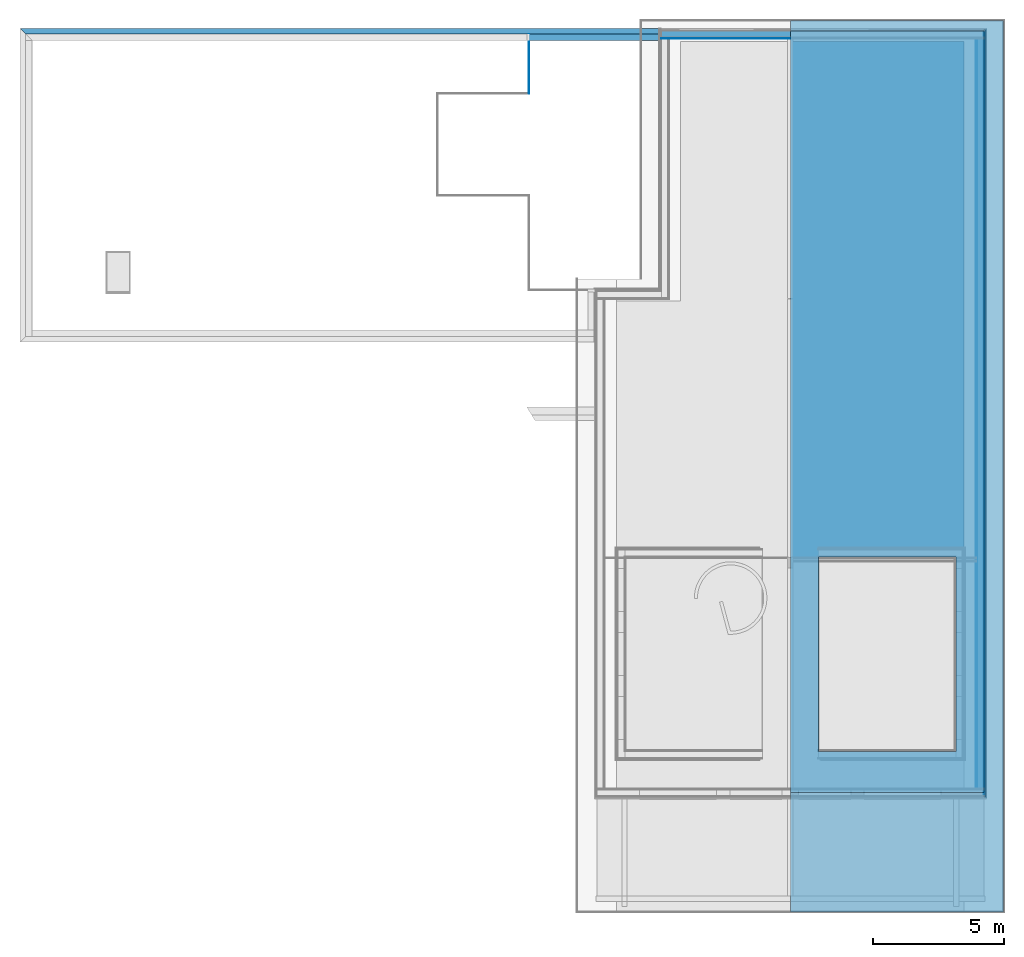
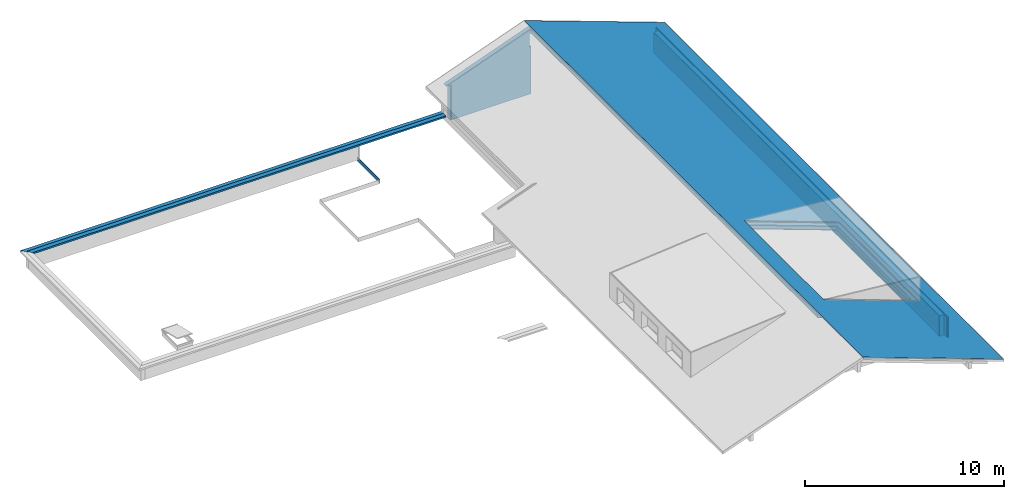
# One storey, part 9 of 12: 20 building element parts, 1 discrete accessory, 6 elements without a shape of their own.
"""IFC4 building model written with IfcOpenShell, lengths in millimetres."""

from ifc_helpers import new_model, entity, si_unit, converted_unit, derived_unit, direction, frame, origin_with_axes, place, context, subcontext, project, spatial, polygons, material, type_object, element, aggregate, save


model = new_model("IFC4")

# Units and contexts
model_context = context("Model", 3, precision=0.01, world=origin_with_axes(), true_north=direction((0.0, 1.0)))
body_context = subcontext(model_context, "Body", "Model", "MODEL_VIEW")
ifc_project = project(units=[si_unit("LENGTHUNIT", "METRE", prefix="MILLI"), si_unit("AREAUNIT", "SQUARE_METRE"), si_unit("VOLUMEUNIT", "CUBIC_METRE"), converted_unit("PLANEANGLEUNIT", "DEGREE", entity("IfcPlaneAngleMeasure", 0.0174532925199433), si_unit("PLANEANGLEUNIT", "RADIAN"), dimensions=[0, 0, 0, 0, 0, 0, 0]), converted_unit("TIMEUNIT", "Year", entity("IfcTimeMeasure", 31557600.0), si_unit("TIMEUNIT", "SECOND"), dimensions=[0, 0, 1, 0, 0, 0, 0]), si_unit("MASSUNIT", "GRAM", prefix="KILO"), si_unit("THERMODYNAMICTEMPERATUREUNIT", "DEGREE_CELSIUS"), si_unit("LUMINOUSINTENSITYUNIT", "LUMEN"), si_unit("ENERGYUNIT", "JOULE", prefix="MEGA"), derived_unit("THERMALCONDUCTANCEUNIT", [(si_unit("POWERUNIT", "WATT"), 1), (si_unit("LENGTHUNIT", "METRE"), -1), (si_unit("THERMODYNAMICTEMPERATUREUNIT", "KELVIN"), -1)]), derived_unit("SPECIFICHEATCAPACITYUNIT", [(si_unit("ENERGYUNIT", "JOULE"), 1), (si_unit("MASSUNIT", "GRAM", prefix="KILO"), -1), (si_unit("THERMODYNAMICTEMPERATUREUNIT", "KELVIN"), -1)]), derived_unit("MASSDENSITYUNIT", [(si_unit("MASSUNIT", "GRAM", prefix="KILO"), 1), (si_unit("VOLUMEUNIT", "CUBIC_METRE"), -1)])], contexts=[model_context])

# Site, building, storey
site_placement = place(None, origin_with_axes())
site = spatial("IfcSite", under=ifc_project, at=site_placement, Name="Gelände", CompositionType="ELEMENT")
building_placement = place(site_placement, origin_with_axes())
building = spatial("IfcBuilding", under=site, at=building_placement, Name="Gebäude", CompositionType="ELEMENT")
storey_placement = place(building_placement, frame((0.0, 0.0, 11600.0), z_axis=(0.0, 0.0, 1.0), x_axis=(1.0, 0.0, 0.0)))
storey = spatial("IfcBuildingStorey", under=building, at=storey_placement, Name="Dachaufsicht", CompositionType="ELEMENT", Elevation=11600.0)

# Discrete accessory
ifc_material_1 = material(Name="Bewehrung")
discrete_accessory_type = type_object("IfcDiscreteAccessoryType", Name="Bewehrung 20 x 250", PredefinedType="NOTDEFINED")
discrete_accessory_placement = place(storey_placement, frame((15428.99744477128, 37737.59728131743, -5.198845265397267e-05), z_axis=(0.0, 0.0, 1.0), x_axis=(-1.0, 0.0, 0.0)))
element("IfcDiscreteAccessory", 1, at=discrete_accessory_placement, inside=storey, type_object=discrete_accessory_type, material=ifc_material_1, Name="Unterzug-029", PredefinedType="NOTDEFINED", context=body_context, shape_type="Tessellation", body=[
    polygons([(0.0, 2289.999999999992, -250.0), (19.99999999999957, 2269.999999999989, -250.0), (19.99999999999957, 0.0, -250.0), (0.0, 0.0, -250.0), (0.0, 2289.999999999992, 0.0), (19.99999999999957, 2269.999999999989, 0.0), (19.99999999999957, 0.0, 0.0), (0.0, 0.0, 0.0)], [[[1, 2, 3, 4]], [[1, 5, 6, 2]], [[2, 6, 7, 3]], [[4, 3, 7, 8]], [[5, 1, 4, 8]], [[6, 5, 8, 7]]], closed=True),
])

# Wall, building element parts
wall_type = type_object("IfcWallType", Name="Aussenwand Typ 01 318", PredefinedType="NOTDEFINED")
wall_1_placement = place(storey_placement, frame((32857.99744477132, 37876.59728131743, 500.0), z_axis=(0.0, 0.0, 1.0), x_axis=(0.0, -1.0, 0.0)))
wall_1 = element("IfcWall", 2, at=wall_1_placement, inside=storey, type_object=wall_type, Name="Wand-014", PredefinedType="NOTDEFINED")
ifc_material_2 = material(Name="Grobspanplatte-OSB")
building_element_part_1_placement = place(wall_1_placement, origin_with_axes())
building_element_part_1 = element("IfcBuildingElementPart", 3, at=building_element_part_1_placement, material=ifc_material_2, Name="Grobspanplatte-OSB", PredefinedType="NOTDEFINED", context=body_context, shape_type="Tessellation", body=[
    polygons([(29340.00000000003, 0.0, 1267.275017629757), (18.00000000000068, 0.0, 1267.275017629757), (18.00000000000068, -18.00000000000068, 1267.275017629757), (29340.00000000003, -18.00000000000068, 1267.275017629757), (29340.00000000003, 0.0, 0.0), (18.00000000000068, 0.0, 0.0), (18.00000000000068, -18.00000000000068, 0.0), (29340.00000000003, -18.00000000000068, 0.0)], [[[1, 2, 3, 4]], [[5, 6, 2, 1]], [[3, 2, 6, 7]], [[4, 3, 7, 8]], [[4, 8, 5, 1]], [[8, 7, 6, 5]]], closed=True),
])
ifc_material_3 = material(Name="Ständer Konstruktion gedämmt")
building_element_part_2_placement = place(wall_1_placement, origin_with_axes())
building_element_part_2 = element("IfcBuildingElementPart", 4, at=building_element_part_2_placement, material=ifc_material_3, Name="Ständer Konstruktion gedämmt", PredefinedType="NOTDEFINED", context=body_context, shape_type="Tessellation", body=[
    polygons([(29080.00000000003, -18.00000000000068, 1267.275017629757), (277.9999999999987, -18.00000000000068, 1267.275017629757), (277.9999999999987, -277.9999999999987, 1267.275017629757), (29080.00000000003, -278.0000000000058, 1267.275017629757), (29080.00000000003, -18.00000000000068, 0.0), (277.9999999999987, -18.00000000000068, 0.0), (277.9999999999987, -277.9999999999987, 0.0), (29080.00000000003, -278.0000000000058, 0.0)], [[[1, 2, 3, 4]], [[5, 6, 2, 1]], [[3, 2, 6, 7]], [[4, 3, 7, 8]], [[4, 8, 5, 1]], [[8, 7, 6, 5]]], closed=True),
])
ifc_material_4 = material(Name="Gipsfaserplatte GFP")
building_element_part_3_placement = place(wall_1_placement, origin_with_axes())
building_element_part_3 = element("IfcBuildingElementPart", 5, at=building_element_part_3_placement, material=ifc_material_4, Name="Gipsfaserplatte GFP", PredefinedType="NOTDEFINED", context=body_context, shape_type="Tessellation", body=[
    polygons([(29065.00000000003, -278.0000000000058, 1267.275017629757), (292.9999999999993, -277.9999999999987, 1267.275017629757), (292.9999999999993, -292.9999999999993, 1267.275017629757), (29065.00000000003, -293.0000000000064, 1267.275017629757), (29065.00000000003, -278.0000000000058, 0.0), (292.9999999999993, -277.9999999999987, 0.0), (292.9999999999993, -292.9999999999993, 0.0), (29065.00000000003, -293.0000000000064, 0.0)], [[[1, 2, 3, 4]], [[5, 6, 2, 1]], [[3, 2, 6, 7]], [[4, 3, 7, 8]], [[4, 8, 5, 1]], [[8, 7, 6, 5]]], closed=True),
])
ifc_material_5 = material(Name="Verputz Innen")
building_element_part_4_placement = place(wall_1_placement, origin_with_axes())
building_element_part_4 = element("IfcBuildingElementPart", 6, at=building_element_part_4_placement, material=ifc_material_5, Name="Verputz Innen", PredefinedType="NOTDEFINED", context=body_context, shape_type="Tessellation", body=[
    polygons([(20340.92716879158, -308.0000000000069, 150.0000000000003), (20340.92716879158, -308.0000000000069, 0.0), (317.9999999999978, -307.9999999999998, 0.0), (317.9999999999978, -307.9999999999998, 1267.275017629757), (29040.00000000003, -308.0000000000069, 1267.275017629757), (29040.00000000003, -308.0000000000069, 150.0000000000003), (20340.92716879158, -318.0000000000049, 150.0000000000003), (20340.92716879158, -318.0000000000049, 0.0), (317.9999999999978, -317.9999999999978, 0.0), (317.9999999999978, -317.9999999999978, 1267.275017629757), (29040.00000000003, -318.0000000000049, 1267.275017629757), (29040.00000000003, -318.0000000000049, 150.0000000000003)], [[[1, 2, 3, 4, 5, 6]], [[1, 7, 8, 2]], [[2, 8, 9, 3]], [[9, 10, 4, 3]], [[11, 5, 4, 10]], [[12, 6, 5, 11]], [[1, 6, 12, 7]], [[7, 12, 11, 10, 9, 8]]], closed=True),
])
building_element_part_5_placement = place(wall_1_placement, origin_with_axes())
building_element_part_5 = element("IfcBuildingElementPart", 7, at=building_element_part_5_placement, material=ifc_material_4, Name="Gipsfaserplatte GFP", PredefinedType="NOTDEFINED", context=body_context, shape_type="Tessellation", body=[
    polygons([(29050.00000000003, -293.0000000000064, 1267.275017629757), (307.9999999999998, -292.9999999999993, 1267.275017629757), (307.9999999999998, -307.9999999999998, 1267.275017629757), (29050.00000000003, -308.0000000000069, 1267.275017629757), (29050.00000000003, -293.0000000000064, 0.0), (307.9999999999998, -292.9999999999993, 0.0), (307.9999999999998, -307.9999999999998, 0.0), (29050.00000000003, -308.0000000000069, 0.0)], [[[1, 2, 3, 4]], [[5, 6, 2, 1]], [[3, 2, 6, 7]], [[4, 3, 7, 8]], [[4, 8, 5, 1]], [[8, 7, 6, 5]]], closed=True),
])
aggregate(wall_1, [building_element_part_1, building_element_part_2, building_element_part_3, building_element_part_4, building_element_part_5])

wall_2_placement = place(storey_placement, frame((25428.99744442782, 37876.59728131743, 500.0), z_axis=(0.0, 0.0, 1.0), x_axis=(-1.0, 0.0, 0.0)))
wall_2 = element("IfcWall", 8, at=wall_2_placement, inside=storey, type_object=wall_type, Name="Wand-014", PredefinedType="NOTDEFINED")
building_element_part_6_placement = place(wall_2_placement, origin_with_axes())
building_element_part_6 = element("IfcBuildingElementPart", 9, at=building_element_part_6_placement, material=ifc_material_5, Name="Verputz Innen", PredefinedType="NOTDEFINED", context=body_context, shape_type="Tessellation", body=[
    polygons([(4941.999999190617, 307.9999943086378, 2165.91752631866), (3.202416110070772e-08, 307.9999999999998, 3964.658423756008), (0.0, 307.9999999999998, 3703.934870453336), (99.99999986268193, 307.9999900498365, 3703.934870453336), (99.99999986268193, 307.9999900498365, 2903.934870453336), (0.0, 307.9999999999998, 2903.934870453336), (0.0, 307.9999999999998, 0.0), (4641.999999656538, 307.9999999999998, 0.0), (4641.999999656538, 307.9999900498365, 2165.91752631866), (4941.999999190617, 317.9999996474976, 2165.91752631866), (3.202416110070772e-08, 317.9999999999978, 3964.658423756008), (0.0, 317.9999999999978, 3703.934870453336), (99.99999986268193, 317.9999996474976, 3703.934870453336), (99.99999986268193, 317.9999996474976, 2903.934870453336), (0.0, 317.9999999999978, 2903.934870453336), (0.0, 317.9999999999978, 0.0), (4641.999999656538, 317.9999999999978, 0.0), (4641.999999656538, 317.9999996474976, 2165.91752631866)], [[[1, 2, 3, 4, 5, 6, 7, 8, 9]], [[2, 1, 10, 11]], [[2, 11, 12, 3]], [[3, 12, 13, 4]], [[4, 13, 14, 5]], [[6, 5, 14, 15]], [[15, 16, 7, 6]], [[17, 8, 7, 16]], [[9, 8, 17, 18]], [[10, 1, 9, 18]], [[11, 10, 18, 17, 16, 15, 14, 13, 12]]], closed=True),
])
building_element_part_7_placement = place(wall_2_placement, origin_with_axes())
building_element_part_7 = element("IfcBuildingElementPart", 10, at=building_element_part_7_placement, material=ifc_material_4, Name="Gipsfaserplatte GFP", PredefinedType="NOTDEFINED", context=body_context, shape_type="Tessellation", body=[
    polygons([(4941.999999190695, 292.9999999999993, 2165.91752631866), (3.202416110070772e-08, 292.9999999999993, 3964.658423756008), (0.0, 292.9999999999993, 3703.934870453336), (99.99999986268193, 292.9999999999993, 3703.934870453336), (99.99999986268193, 292.9999999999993, 2903.934870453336), (0.0, 292.9999999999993, 2903.934870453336), (0.0, 292.9999999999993, 0.0), (4651.999999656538, 292.9999999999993, 0.0), (4651.999999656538, 292.9999999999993, 2165.91752631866), (4941.999999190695, 307.9999943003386, 2165.91752631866), (3.202416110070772e-08, 307.9999999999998, 3964.658423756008), (0.0, 307.9999999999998, 3703.934870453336), (99.99999986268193, 307.9999900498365, 3703.934870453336), (99.99999986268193, 307.9999900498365, 2903.934870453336), (0.0, 307.9999999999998, 2903.934870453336), (0.0, 307.9999999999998, 0.0), (4651.999999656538, 307.9999999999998, 0.0), (4651.999999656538, 307.9999900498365, 2165.91752631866)], [[[1, 2, 3, 4, 5, 6, 7, 8, 9]], [[2, 1, 10, 11]], [[2, 11, 12, 3]], [[3, 12, 13, 4]], [[4, 13, 14, 5]], [[6, 5, 14, 15]], [[15, 16, 7, 6]], [[17, 8, 7, 16]], [[9, 8, 17, 18]], [[10, 1, 9, 18]], [[11, 10, 18, 17, 16, 15, 14, 13, 12]]], closed=True),
])
building_element_part_8_placement = place(wall_2_placement, origin_with_axes())
building_element_part_8 = element("IfcBuildingElementPart", 11, at=building_element_part_8_placement, material=ifc_material_3, Name="Ständer Konstruktion gedämmt", PredefinedType="NOTDEFINED", context=body_context, shape_type="Tessellation", body=[
    polygons([(4941.999999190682, 18.00000377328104, 2165.91752631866), (3.202416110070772e-08, 18.00000000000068, 3964.658423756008), (0.0, 18.00000000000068, 0.0), (4681.99999965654, 18.00000000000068, 0.0), (4681.99999965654, 18.00000655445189, 2165.91752631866), (4941.999999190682, 277.9999931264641, 2165.91752631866), (3.202416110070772e-08, 277.9999999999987, 3964.658423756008), (0.0, 277.9999999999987, 3703.934870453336), (0.0, 58.00000000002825, 3703.934870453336), (0.0, 58.00000000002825, 2903.934870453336), (0.0, 277.9999999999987, 2903.934870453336), (0.0, 277.9999999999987, 0.0), (4681.99999965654, 277.9999999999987, 0.0), (4681.99999965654, 277.9999880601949, 2165.91752631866), (99.99999986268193, 277.9999880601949, 2903.934870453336), (99.99999986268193, 277.9999880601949, 3703.934870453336), (99.99999986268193, 58.00000000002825, 3703.934870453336), (99.99999986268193, 58.00000000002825, 2903.934870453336)], [[[1, 2, 3, 4, 5]], [[2, 1, 6, 7]], [[2, 7, 8, 9, 10, 11, 12, 3]], [[13, 4, 3, 12]], [[5, 4, 13, 14]], [[6, 1, 5, 14]], [[7, 6, 14, 13, 12, 11, 15, 16, 8]], [[8, 16, 17, 9]], [[9, 17, 18, 10]], [[10, 18, 15, 11]], [[15, 18, 17, 16]]], closed=True),
])
aggregate(wall_2, [building_element_part_6, building_element_part_7, building_element_part_8])

# Curtain wall, building element parts
curtain_wall_type = type_object("IfcCurtainWallType", Name="Fassade Typ 02 - Vertikale Schalung 71", PredefinedType="NOTDEFINED")
curtain_wall_placement = place(storey_placement, frame((32928.99744408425, 37947.59728063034, 499.999999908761), z_axis=(0.0, 0.0, 1.0), x_axis=(0.0, -1.0, 0.0)))
curtain_wall = element("IfcCurtainWall", 12, at=curtain_wall_placement, inside=storey, type_object=curtain_wall_type, Name="Wand-014", PredefinedType="NOTDEFINED")
ifc_material_6 = material(Name="Falzschalung vertikal")
building_element_part_9_placement = place(curtain_wall_placement, origin_with_axes())
building_element_part_9 = element("IfcBuildingElementPart", 13, at=building_element_part_9_placement, material=ifc_material_6, Name="Falzschalung vertikal", PredefinedType="NOTDEFINED", context=body_context, shape_type="Tessellation", body=[
    polygons([(21.00001796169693, -21.0000000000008, 463.7053149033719), (8.953328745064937e-06, 9.040583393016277e-06, 461.6322532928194), (-1.151079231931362e-09, -21.0000000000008, 461.6322524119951), (29478.99999931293, -1.49213974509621e-10, 461.6322541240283), (29478.99999978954, -21.00000047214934, 463.7053148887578), (0.0, 0.0, 0.0), (-1.151079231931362e-09, -21.0000000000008, 0.0), (29478.99999931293, -21.0000000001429, 0.0), (29478.99999931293, -1.49213974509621e-10, 0.0)], [[[1, 2, 3]], [[4, 2, 1, 5]], [[3, 2, 6, 7]], [[5, 1, 3, 7, 8]], [[2, 4, 9, 6]], [[4, 5, 8, 9]], [[9, 8, 7, 6]]], closed=True),
    polygons([(29478.99999931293, -1.49213974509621e-10, 464.4625117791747), (8.949690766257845e-06, 9.044228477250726e-06, 464.4625109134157), (0.0, 0.0, 1260.723553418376), (29478.99999931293, -1.49213974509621e-10, 1260.723553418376), (21.00001796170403, -21.0000000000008, 466.6208122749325), (29478.99999978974, -21.00000047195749, 466.6208122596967), (-1.151079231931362e-09, -21.0000000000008, 464.4625099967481), (-1.151079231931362e-09, -21.0000000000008, 1260.723553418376), (29478.99999931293, -21.0000000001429, 1260.723553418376)], [[[1, 2, 3, 4]], [[5, 2, 1, 6]], [[2, 7, 8, 3]], [[9, 4, 3, 8]], [[6, 1, 4, 9]], [[2, 5, 7]], [[5, 6, 9, 8, 7]]], closed=True),
])
ifc_material_7 = material(Name="Lattenrost horizontal")
building_element_part_10_placement = place(curtain_wall_placement, origin_with_axes())
building_element_part_10 = element("IfcBuildingElementPart", 14, at=building_element_part_10_placement, material=ifc_material_7, Name="Lattenrost horizontal", PredefinedType="NOTDEFINED", context=body_context, shape_type="Tessellation", body=[
    polygons([(46.00001792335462, -46.00000000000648, 466.1732443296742), (21.00000893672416, -20.99999097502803, 463.7053140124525), (20.99999999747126, -45.99999999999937, 463.7053131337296), (29453.99999931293, -21.0000000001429, 463.7053148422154), (29453.99999978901, -46.00000047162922, 466.1732443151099), (20.99999999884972, -21.0000000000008, 0.0), (20.99999999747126, -45.99999999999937, 0.0), (29453.99999931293, -46.00000000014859, 0.0), (29453.99999931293, -21.0000000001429, 0.0)], [[[1, 2, 3]], [[4, 2, 1, 5]], [[3, 2, 6, 7]], [[5, 1, 3, 7, 8]], [[2, 4, 9, 6]], [[4, 5, 8, 9]], [[9, 8, 7, 6]]], closed=True),
    polygons([(29453.99999931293, -21.0000000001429, 466.620812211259), (21.00000893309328, -20.99999097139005, 466.6208113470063), (20.99999999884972, -21.0000000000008, 1260.723553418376), (29453.99999931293, -21.0000000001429, 1260.723553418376), (46.00001792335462, -46.00000000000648, 469.1902175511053), (29453.9999997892, -46.00000047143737, 469.1902175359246), (20.99999999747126, -45.99999999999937, 466.6208104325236), (20.99999999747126, -45.99999999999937, 1260.723553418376), (29453.99999931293, -46.00000000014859, 1260.723553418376)], [[[1, 2, 3, 4]], [[5, 2, 1, 6]], [[2, 7, 8, 3]], [[9, 4, 3, 8]], [[6, 1, 4, 9]], [[2, 5, 7]], [[5, 6, 9, 8, 7]]], closed=True),
])
ifc_material_8 = material(Name="Lattenrost vertikal")
building_element_part_11_placement = place(curtain_wall_placement, origin_with_axes())
building_element_part_11 = element("IfcBuildingElementPart", 15, at=building_element_part_11_placement, material=ifc_material_8, Name="Lattenrost vertikal", PredefinedType="NOTDEFINED", context=body_context, shape_type="Tessellation", body=[
    polygons([(71.00001805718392, -71.00000017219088, 468.641173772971), (46.00000891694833, -45.99999099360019, 466.1732434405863), (45.9999999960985, -70.99999999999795, 466.1732425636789), (29428.99999931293, -46.00000000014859, 466.173244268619), (29428.99999946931, -71.0000007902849, 468.641173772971), (45.99999999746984, -45.99999999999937, 0.0), (45.9999999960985, -70.99999999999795, 0.0), (29428.99999931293, -71.00000000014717, 0.0), (29428.99999931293, -46.00000000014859, 0.0)], [[[1, 2, 3]], [[4, 2, 1, 5]], [[3, 2, 6, 7]], [[5, 1, 3, 7, 8]], [[2, 4, 9, 6]], [[4, 5, 8, 9]], [[9, 8, 7, 6]]], closed=True),
    polygons([(29428.99999931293, -46.00000000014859, 469.190217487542), (46.00000891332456, -45.99999098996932, 469.1902166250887), (45.99999999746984, -45.99999999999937, 1260.723553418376), (29428.99999931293, -46.00000000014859, 1260.723553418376), (68.30001690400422, -68.29999901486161, 471.4821269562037), (29428.99999931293, -68.29999963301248, 471.4821269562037), (45.9999999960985, -70.99999999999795, 469.1902157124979), (45.9999999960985, -70.99999999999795, 1260.723553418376), (29428.99999931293, -71.00000000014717, 1260.723553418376), (29428.99999946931, -71.0000007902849, 501.6508769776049), (29428.99999931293, -68.29999963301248, 501.6508769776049), (68.3000168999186, -70.99999999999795, 471.4821269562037), (68.30001690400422, -68.29999901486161, 501.6508769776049), (71.00001805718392, -71.00000017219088, 501.6508769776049), (68.3000168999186, -70.99999999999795, 501.6508769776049)], [[[1, 2, 3, 4]], [[5, 2, 1, 6]], [[2, 7, 8, 3]], [[9, 4, 3, 8]], [[6, 1, 4, 9, 10, 11]], [[2, 5, 12, 7]], [[13, 5, 6, 11]], [[14, 10, 9, 8, 7, 12, 15]], [[13, 11, 10, 14, 15]], [[5, 13, 15, 12]]], closed=True),
])
aggregate(curtain_wall, [building_element_part_9, building_element_part_10, building_element_part_11])

# Roof, building element parts
roof_type = type_object("IfcRoofType", Name="Steildach Typ 01 255", PredefinedType="NOTDEFINED")
roof_placement = place(storey_placement, frame((32857.99744398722, 8518.597281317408, 1499.999999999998), z_axis=(0.0, 0.0, 1.0), x_axis=(0.0, 1.0, 0.0)))
roof = element("IfcRoof", 16, at=roof_placement, inside=storey, type_object=roof_type, Name="Dach-011", PredefinedType="NOTDEFINED")
ifc_material_9 = material(Name="Balken Konstruktion gedämmt")
building_element_part_12_placement = place(roof_placement, origin_with_axes())
building_element_part_12 = element("IfcBuildingElementPart", 17, at=building_element_part_12_placement, material=ifc_material_9, Name="Balken Konstruktion gedämmt", PredefinedType="NOTDEFINED", context=body_context, shape_type="Tessellation", body=[
    polygons([(29340.00000045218, 7429.000000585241, 2932.733091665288), (29339.99999997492, 18.00000048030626, 235.3496854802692), (29339.99999986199, 18.00000060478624, 43.79768647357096), (29340.0000007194, 7429.000000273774, 2741.181092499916), (177.9999992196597, 18.00000048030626, 235.3496854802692), (28939.99999964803, 7429.000000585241, 2932.733091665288), (28939.99999964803, 769.7540973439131, 508.9658002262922), (177.9999992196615, 769.7540973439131, 508.9658002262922), (177.9999993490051, 18.00000060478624, 43.79768647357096), (177.9999993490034, 7428.999999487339, 2741.181092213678), (1749.072831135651, 6357.900825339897, 2351.332874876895), (1749.072831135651, 1086.000000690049, 432.5178967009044), (9201.100000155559, 1086.000000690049, 432.5178967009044), (9201.100000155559, 6357.900825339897, 2351.332874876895), (177.9999992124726, 7428.999999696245, 2943.374869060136), (28939.99999970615, 7429.000000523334, 2943.374869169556), (28939.99999971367, 769.7540973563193, 519.6075779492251), (177.9999992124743, 769.7540973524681, 519.6075779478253), (1749.072831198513, 6357.900825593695, 2553.526651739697), (1749.072831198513, 1086.000000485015, 634.7116733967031), (9201.100000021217, 1086.000000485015, 634.7116733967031), (9201.100000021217, 6357.900825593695, 2553.526651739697)], [[[1, 2, 3, 4]], [[5, 2, 1, 6, 7, 8]], [[2, 5, 9, 3]], [[10, 4, 3, 9], [11, 12, 13, 14]], [[6, 1, 4, 10, 15, 16]], [[16, 17, 7, 6]], [[17, 18, 8, 7]], [[8, 18, 15, 10, 9, 5]], [[19, 20, 12, 11]], [[20, 21, 13, 12]], [[21, 22, 14, 13]], [[22, 19, 11, 14]], [[17, 16, 15, 18], [21, 20, 19, 22]]], closed=True),
])
ifc_material_10 = material(Name="Dreischichtplatte-DSP")
building_element_part_13_placement = place(roof_placement, origin_with_axes())
building_element_part_13 = element("IfcBuildingElementPart", 18, at=building_element_part_13_placement, material=ifc_material_10, Name="Dreischichtplatte-DSP", PredefinedType="NOTDEFINED", context=body_context, shape_type="Tessellation", body=[
    polygons([(28939.99999991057, 769.7540973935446, 551.5329104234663), (28939.99999988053, 7429.000000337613, 2975.300201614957), (177.9999991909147, 7428.999999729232, 2975.300201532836), (177.9999991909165, 769.7540973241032, 551.5329103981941), (9201.100000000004, 1086.000000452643, 666.6370058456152), (1749.072831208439, 1086.000000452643, 666.6370058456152), (1749.072831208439, 6357.90082563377, 2585.451984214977), (9201.100000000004, 6357.90082563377, 2585.451984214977), (28939.99999971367, 769.7540973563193, 519.6075779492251), (28939.99999970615, 7429.000000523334, 2943.374869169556), (177.9999992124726, 7428.999999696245, 2943.374869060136), (177.9999992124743, 769.7540973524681, 519.6075779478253), (9201.100000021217, 1086.000000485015, 634.7116733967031), (1749.072831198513, 1086.000000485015, 634.7116733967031), (1749.072831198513, 6357.900825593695, 2553.526651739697), (9201.100000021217, 6357.900825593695, 2553.526651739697)], [[[1, 2, 3, 4], [5, 6, 7, 8]], [[2, 1, 9, 10]], [[2, 10, 11, 3]], [[12, 4, 3, 11]], [[1, 4, 12, 9]], [[6, 5, 13, 14]], [[7, 6, 14, 15]], [[8, 7, 15, 16]], [[5, 8, 16, 13]], [[9, 12, 11, 10], [15, 14, 13, 16]]], closed=True),
])
ifc_material_11 = material(Name="Gipskartonplatte GKP")
building_element_part_14_placement = place(roof_placement, origin_with_axes())
building_element_part_14 = element("IfcBuildingElementPart", 19, at=building_element_part_14_placement, material=ifc_material_11, Name="Gipskartonplatte GKP", PredefinedType="NOTDEFINED", context=body_context, shape_type="Tessellation", body=[
    polygons([(29340.00000073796, 7429.000000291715, 2727.878870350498), (29339.99999985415, 18.00000061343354, 30.49546432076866), (29339.99999984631, 18.00000062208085, 17.19324216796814), (29340.00000075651, 7429.00000030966, 2714.576648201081), (177.9999993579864, 7428.999999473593, 2727.878870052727), (177.9999993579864, 18.00000061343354, 30.49546432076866), (9201.100000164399, 1086.000000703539, 419.2156745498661), (1749.072831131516, 1086.000000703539, 419.2156745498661), (1749.072831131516, 6357.900825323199, 2338.03065271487), (9201.100000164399, 6357.900825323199, 2338.03065271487), (177.9999993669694, 18.00000062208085, 17.19324216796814), (177.9999993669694, 7428.999999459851, 2714.576647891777), (1749.07283112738, 6357.900825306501, 2324.728430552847), (1749.07283112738, 1086.000000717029, 405.9134523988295), (9201.100000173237, 1086.000000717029, 405.9134523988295), (9201.100000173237, 6357.900825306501, 2324.728430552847)], [[[1, 2, 3, 4]], [[2, 1, 5, 6], [7, 8, 9, 10]], [[2, 6, 11, 3]], [[12, 4, 3, 11], [13, 14, 15, 16]], [[5, 1, 4, 12]], [[6, 5, 12, 11]], [[8, 7, 15, 14]], [[9, 8, 14, 13]], [[10, 9, 13, 16]], [[7, 10, 16, 15]]], closed=True),
])
building_element_part_15_placement = place(roof_placement, origin_with_axes())
building_element_part_15 = element("IfcBuildingElementPart", 20, at=building_element_part_15_placement, material=ifc_material_11, Name="Gipskartonplatte GKP", PredefinedType="NOTDEFINED", context=body_context, shape_type="Tessellation", body=[
    polygons([(29340.0000007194, 7429.000000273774, 2741.181092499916), (29339.99999986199, 18.00000060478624, 43.79768647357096), (29339.99999985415, 18.00000061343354, 30.49546432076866), (29340.00000073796, 7429.000000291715, 2727.878870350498), (177.9999993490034, 7428.999999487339, 2741.181092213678), (177.9999993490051, 18.00000060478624, 43.79768647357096), (9201.100000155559, 1086.000000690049, 432.5178967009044), (1749.072831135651, 1086.000000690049, 432.5178967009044), (1749.072831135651, 6357.900825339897, 2351.332874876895), (9201.100000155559, 6357.900825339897, 2351.332874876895), (177.9999993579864, 18.00000061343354, 30.49546432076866), (177.9999993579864, 7428.999999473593, 2727.878870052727), (1749.072831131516, 6357.900825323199, 2338.03065271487), (1749.072831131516, 1086.000000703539, 419.2156745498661), (9201.100000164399, 1086.000000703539, 419.2156745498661), (9201.100000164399, 6357.900825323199, 2338.03065271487)], [[[1, 2, 3, 4]], [[2, 1, 5, 6], [7, 8, 9, 10]], [[2, 6, 11, 3]], [[12, 4, 3, 11], [13, 14, 15, 16]], [[5, 1, 4, 12]], [[6, 5, 12, 11]], [[8, 7, 15, 14]], [[9, 8, 14, 13]], [[10, 9, 13, 16]], [[7, 10, 16, 15]]], closed=True),
])
ifc_material_12 = material(Name="Kalkzementputz Aussen")
building_element_part_16_placement = place(roof_placement, origin_with_axes())
building_element_part_16 = element("IfcBuildingElementPart", 21, at=building_element_part_16_placement, material=ifc_material_12, Name="Kalkzementputz Aussen", PredefinedType="NOTDEFINED", context=body_context, shape_type="Tessellation", body=[
    polygons([(29340.00000075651, 7429.00000030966, 2714.576648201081), (29339.99999984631, 18.00000062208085, 17.19324216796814), (29339.99999984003, 18.00000062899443, 6.55146484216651), (29340.00000077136, 7429.000000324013, 2703.934870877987), (177.9999993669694, 7428.999999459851, 2714.576647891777), (177.9999993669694, 18.00000062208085, 17.19324216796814), (9201.100000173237, 1086.000000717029, 405.9134523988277), (1749.07283112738, 1086.000000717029, 405.9134523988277), (1749.07283112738, 6357.900825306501, 2324.728430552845), (9201.100000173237, 6357.900825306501, 2324.728430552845), (177.9999993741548, 18.00000062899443, 6.55146484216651), (177.9999993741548, 7428.999999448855, 2703.934870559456), (1749.072831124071, 1086.000000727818, 395.2716750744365), (9201.100000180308, 1086.000000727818, 395.2716750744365), (9201.100000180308, 6357.900825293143, 2314.086653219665), (1749.072831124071, 6357.900825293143, 2314.086653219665)], [[[1, 2, 3, 4]], [[2, 1, 5, 6], [7, 8, 9, 10]], [[2, 6, 11, 3]], [[4, 3, 11, 12], [13, 14, 15, 16]], [[5, 1, 4, 12]], [[6, 5, 12, 11]], [[8, 7, 14, 13]], [[9, 8, 13, 16]], [[10, 9, 16, 15]], [[7, 10, 15, 14]]], closed=True),
])
aggregate(roof, [building_element_part_12, building_element_part_13, building_element_part_14, building_element_part_15, building_element_part_16])

# Covering, building element parts
covering_type_1 = type_object("IfcCoveringType", Name="Dacheindeckung Typ 03 - Steildach 100", PredefinedType="NOTDEFINED")
covering_1_placement = place(storey_placement, frame((32857.99744457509, 8136.597281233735, 1760.723553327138), z_axis=(0.0, 0.0, 1.0), x_axis=(0.0, 1.0, 0.0)))
covering_1 = element("IfcCovering", 22, at=covering_1_placement, inside=storey, type_object=covering_type_1, Name="Dach-011", PredefinedType="NOTDEFINED")
ifc_material_13 = material(Name="Dachziegel grau")
building_element_part_17_placement = place(covering_1_placement, origin_with_axes())
building_element_part_17 = element("IfcBuildingElementPart", 23, at=building_element_part_17_placement, material=ifc_material_13, Name="Dachziegel grau", PredefinedType="NOTDEFINED", context=body_context, shape_type="Tessellation", body=[
    polygons([(30122.00000009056, -733.7540960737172, -160.6468729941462), (30121.99999952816, 7429.000000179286, 2810.352647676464), (-4018.000000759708, 7429.000000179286, 2810.352647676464), (-4017.999999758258, -733.7540960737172, -160.6468729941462), (9861.072831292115, 808.0000005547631, 400.5057267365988), (1853.072831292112, 808.0000005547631, 400.5057267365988), (1853.072831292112, 6335.237093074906, 2412.255506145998), (9861.072831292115, 6335.237093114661, 2412.255506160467), (30122.00000018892, -733.7540961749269, -187.2513173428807), (30121.99999953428, 7429.000000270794, 2783.748203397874), (-4018.000000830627, 7429.000000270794, 2783.748203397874), (-4017.99999984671, -733.7540961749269, -187.2513173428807), (9861.07283119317, 808.0000005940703, 373.9012824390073), (1853.072831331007, 808.0000005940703, 373.9012824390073), (1853.072831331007, 6335.23709314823, 2385.651061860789), (9861.07283119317, 6335.237093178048, 2385.651061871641)], [[[1, 2, 3, 4], [5, 6, 7, 8]], [[2, 1, 9, 10]], [[3, 2, 10, 11]], [[4, 3, 11, 12]], [[1, 4, 12, 9]], [[6, 5, 13, 14]], [[7, 6, 14, 15]], [[8, 7, 15, 16]], [[5, 8, 16, 13]], [[11, 10, 9, 12], [15, 14, 13, 16]]], closed=True),
])
ifc_material_14 = material(Name="Aufdachdämmung")
building_element_part_18_placement = place(covering_1_placement, origin_with_axes())
building_element_part_18 = element("IfcBuildingElementPart", 24, at=building_element_part_18_placement, material=ifc_material_14, Name="Aufdachdämmung", PredefinedType="NOTDEFINED", context=body_context, shape_type="Tessellation", body=[
    polygons([(-4017.999999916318, -733.7540954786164, -235.1393165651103), (30122.00000008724, -733.7540954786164, -235.1393165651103), (30122.00000018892, -733.7540961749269, -187.2513173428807), (-4017.99999984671, -733.7540961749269, -187.2513173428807), (30122.00000008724, 7429.000000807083, 2735.860204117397), (-4017.999999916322, 769.7540977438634, 312.0929127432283), (29322.00000012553, 769.7540980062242, 312.0929128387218), (29322.00000008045, 7429.000000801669, 2735.860204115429), (30121.99999953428, 7429.000000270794, 2783.748203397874), (-4018.000000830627, 7429.000000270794, 2783.748203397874), (9861.07283119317, 808.0000005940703, 373.9012824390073), (1853.072831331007, 808.0000005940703, 373.9012824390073), (1853.072831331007, 6335.23709314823, 2385.651061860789), (9861.07283119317, 6335.237093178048, 2385.651061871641), (-4018.000000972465, 7429.000000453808, 2730.539314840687), (-4017.999999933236, 769.7540977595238, 306.7720236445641), (29322.00000009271, 769.7540980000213, 306.7720236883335), (29322.00000005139, 7429.000000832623, 2730.539314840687), (9861.072830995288, 808.0000006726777, 320.6923938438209), (1853.072831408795, 808.0000006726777, 320.6923938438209), (1853.072831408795, 6335.237093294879, 2332.442173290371), (9861.072830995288, 6335.23709330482, 2332.442173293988)], [[[1, 2, 3, 4]], [[5, 2, 1, 6, 7, 8]], [[2, 5, 9, 3]], [[3, 9, 10, 4], [11, 12, 13, 14]], [[6, 1, 4, 10, 15, 16]], [[16, 17, 7, 6]], [[17, 18, 8, 7]], [[8, 18, 15, 10, 9, 5]], [[12, 11, 19, 20]], [[13, 12, 20, 21]], [[14, 13, 21, 22]], [[11, 14, 22, 19]], [[17, 16, 15, 18], [21, 20, 19, 22]]], closed=True),
])
aggregate(covering_1, [building_element_part_17, building_element_part_18])

covering_type_2 = type_object("IfcCoveringType", Name="Brüstungsabdeckung 02 470 x 100", PredefinedType="NOTDEFINED")
covering_2_placement = place(storey_placement, frame((-3861.004181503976, 37737.5972813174, 930.9999999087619), z_axis=(0.0, 0.0, 1.0), x_axis=(0.0, -1.0, 0.0)))
covering_2 = element("IfcCovering", 25, at=covering_2_placement, inside=storey, type_object=covering_type_2, Name="Unterzug-027", PredefinedType="NOTDEFINED")
ifc_material_15 = material(Name="Stahl")
building_element_part_19_placement = place(covering_2_placement, origin_with_axes())
building_element_part_19 = element("IfcBuildingElementPart", 26, at=building_element_part_19_placement, material=ifc_material_15, Name="Stahl", PredefinedType="NOTDEFINED", context=body_context, shape_type="Tessellation", body=[
    polygons([(1.106307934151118e-06, 24290.00162627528, 2.526757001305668), (1.106307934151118e-06, 24290.00162627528, 1.651894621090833e-06), (1.106307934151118e-06, 1.106309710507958e-06, 1.651894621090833e-06), (1.106307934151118e-06, 1.106310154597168e-06, 2.526757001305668), (252.7000903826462, 24290.00162627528, 2.526757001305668), (252.7001324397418, 24290.00162627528, -97.47324404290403), (250.000087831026, 24290.00162627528, -97.47324404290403), (249.9999967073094, 24290.00162627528, 1.651894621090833e-06), (249.9999967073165, 249.999996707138, 1.651894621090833e-06), (250.000087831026, 250.0000878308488, -97.47324404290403), (252.7001324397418, 252.7001324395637, -97.47324404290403), (252.7000903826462, 252.7000903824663, 2.526757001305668)], [[[1, 2, 3, 4]], [[1, 5, 6, 7, 8, 2]], [[2, 8, 9, 3]], [[4, 3, 9, 10, 11, 12]], [[5, 1, 4, 12]], [[6, 5, 12, 11]], [[7, 6, 11, 10]], [[8, 7, 10, 9]]], closed=True),
])
building_element_part_20_placement = place(covering_2_placement, origin_with_axes())
building_element_part_20 = element("IfcBuildingElementPart", 27, at=building_element_part_20_placement, material=ifc_material_15, Name="Stahl", PredefinedType="NOTDEFINED", context=body_context, shape_type="Tessellation", body=[
    polygons([(-217.7000878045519, 24290.00162627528, 2.526755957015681), (-217.6999600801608, 24290.00162627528, -97.47324404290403), (-217.6999600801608, -217.6999600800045, -97.47324404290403), (-217.700087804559, -217.7000878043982, 2.526755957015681), (0.0, 24290.00162627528, 2.526755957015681), (0.0, 24290.00162627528, 0.0), (-215.0000000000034, 24290.00162627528, 0.0), (-214.9999138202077, 24290.00162627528, -97.47324404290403), (-214.9999138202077, -214.9999138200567, -97.47324404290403), (-214.9999999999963, -214.999999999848, 0.0), (0.0, 0.0, 0.0), (0.0, 0.0, 2.526755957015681)], [[[1, 2, 3, 4]], [[1, 5, 6, 7, 8, 2]], [[2, 8, 9, 3]], [[4, 3, 9, 10, 11, 12]], [[5, 1, 4, 12]], [[6, 5, 12, 11]], [[7, 6, 11, 10]], [[8, 7, 10, 9]]], closed=True),
])
aggregate(covering_2, [building_element_part_19, building_element_part_20])

save(model, "model.ifc")
